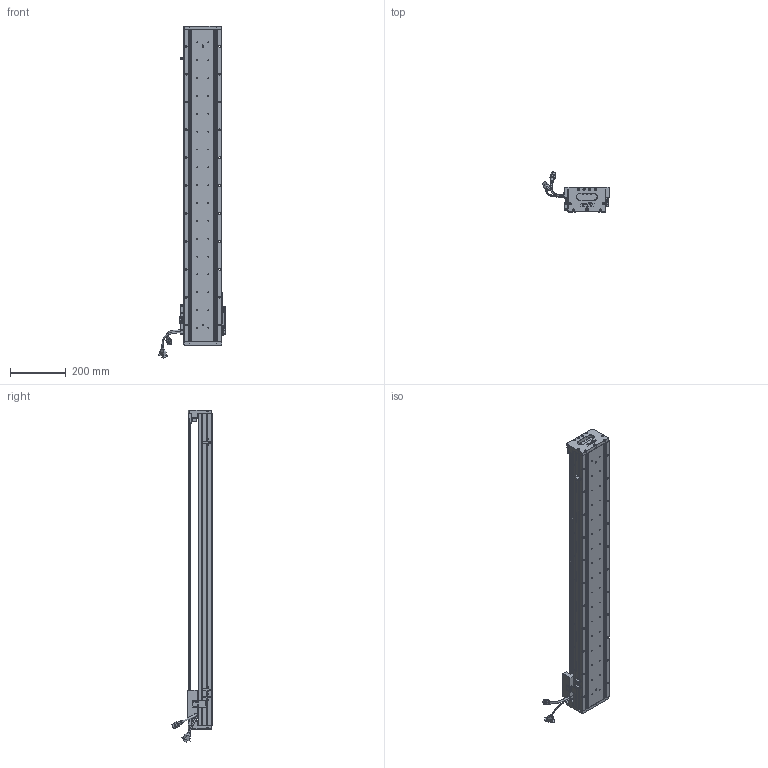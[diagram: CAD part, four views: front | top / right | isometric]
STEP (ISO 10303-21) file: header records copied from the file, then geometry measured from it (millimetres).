
FILE_DESCRIPTION (( 'STEP AP203' ), '1' );
FILE_NAME ('Z1-RY140D-1-L500-B-K.SLDASM_0950.step', '2021-05-17T07:31:19', ( '盈信电脑' ), ( '东莞市道滘镇水果街19号' ), 'SwSTEP 2.0', 'SolidWorks 2016', '' );
FILE_SCHEMA (( 'CONFIG_CONTROL_DESIGN' ));
Length unit declared in the file: millimetre
Products named in the file (36): 榋妏寠巭燃_暯_M2_2; HARNESS-Part-2; 140-Z-臏賑輸盄裔(21遴); PBU_SHEET; Z-RY140詩湍奻揤裔; SCREW-M1.6-1; Z-140詩湍傷裔啣; SCREW-M1.6-2; Z1-RY140-L500詩湍100mm遵_0950; 080黍杅芛假蚾釱21遴; SEAL; Z1-RY140-L500直线电机模组底座_0950; SCALE-Part-2; PSLH080_PSLF2; SEAL-Part-1; Z1-RY140D-1-L500-B-K.SLDASM_0950; Z-RY140感应器672光电感应片; SCREW-M1.6; SCALE; SHIELDPLATE; 140雄赽晤鎢ん堤盄; LABEL; SCREW-M1.7-1; HARNESS; SCREW-M1.7; Z-RY140詩湍狟揤裔; Z1-RY140圉猾敕臏賑輸(21遴); SCREW-M1.6-3; LABEL-Part-1; SCALE-Part-1; COVER; COVER-Part-1; HARNESS-Part-1; 覜茼ん672; 140蚥薯蝶輸; HOLDER0
Assembly tree (41 placements, depth 4):
  Z1-RY140D-1-L500-B-K.SLDASM_0950
    Z1-RY140-L500直线电机模组底座_0950
    Z-RY140感应器672光电感应片
    Z1-RY140圉猾敕臏賑輸(21遴)
    覜茼ん672  x3
    Z1-RY140-L500詩湍100mm遵_0950
    PSLH080_PSLF2
      SCALE
        SCALE-Part-1
        SCALE-Part-2
      HARNESS
        HARNESS-Part-1
        HARNESS-Part-2
      LABEL
        LABEL-Part-1
      COVER
        COVER-Part-1
      SEAL
        SEAL-Part-1
      榋妏寠巭燃_暯_M2_2
      SHIELDPLATE
      SCREW-M1.7
      SCREW-M1.7-1
      PBU_SHEET
      SCREW-M1.6
      SCREW-M1.6-1
      SCREW-M1.6-2
      SCREW-M1.6-3
      HOLDER0
    080黍杅芛假蚾釱21遴
    140-Z-臏賑輸盄裔(21遴)
    Z-140詩湍傷裔啣  x2
    Z-RY140詩湍狟揤裔  x2
    Z-RY140詩湍奻揤裔  x2
    140蚥薯蝶輸  x2
    140雄赽晤鎢ん堤盄
Bounding box: 239.84 x 143.88 x 1190.88 mm (x, y, z)
Volume: 3972627.5 mm3; surface area: 1062212.4 mm2
Topology: 36 solids, 36 shells, 2944 faces, 7798 edges, 4945 vertices
Faces by surface type: cylinder 1400, plane 1148, cone 274, torus 69, bspline 53
Entity records: 86950 total; most frequent: CARTESIAN_POINT 22455, ORIENTED_EDGE 12740, DIRECTION 12430, EDGE_CURVE 6370, AXIS2_PLACEMENT_3D 4552, VERTEX_POINT 4113, VECTOR 3326, LINE 3326
